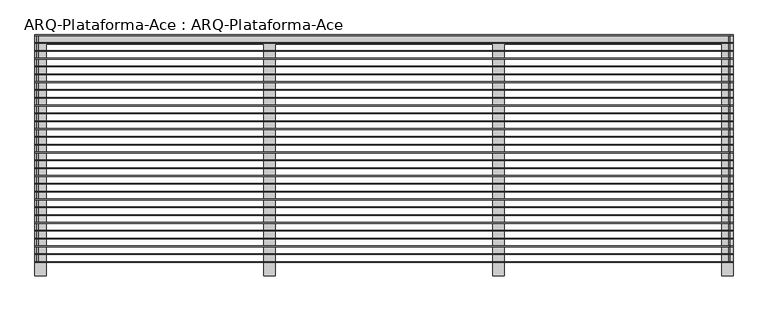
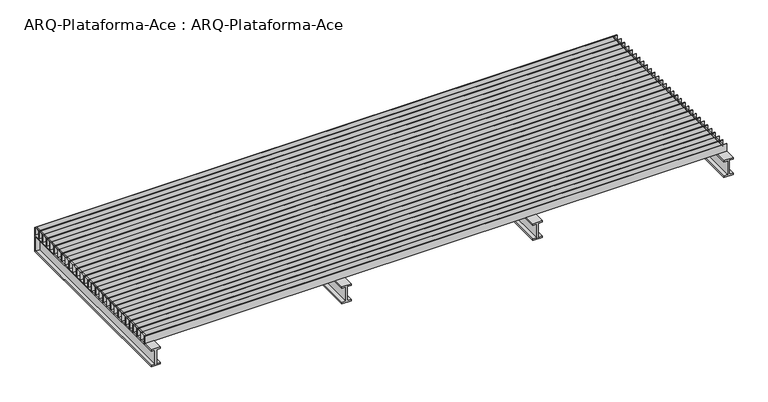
"""IFC4 building model written with IfcOpenShell, lengths in millimetres: proxy geometry, ARQ-Plataforma-Ace : ARQ-Plataforma-Ace."""

from ifc_helpers import new_model, si_unit, point, frame, frame_2d, origin, origin_with_axes, place, context, project, spatial, polyline, circle_curve, trimmed, segment, composite_curve, outline, extrude, faceted_brep, source, transform, mapped, element, save


def arq_plataforma_ace_arq_plataforma_ace_1b43c91c(model_context):
    return source(origin(), model_context, "Body", "SolidModel", [
        extrude(outline(composite_curve([segment(trimmed(circle_curve(frame_2d((28.8398929, 1285.9545951)), 2.5), [point((28.8398929, 1283.4545951))], [point((28.8398929, 1288.4545951))], False, "CARTESIAN"), True, "CONTINUOUS"), segment(trimmed(circle_curve(frame_2d((28.8398929, 1285.9545951)), 2.5), [point((28.8398929, 1288.4545951))], [point((28.8398929, 1283.4545951))], False, "CARTESIAN"), True, "CONTINUOUS")], self_intersect=False)), frame((0.0, -371.25, 0.0), z_axis=(0.0, 1.0, 0.0), x_axis=(0.0, 0.0, 1.0)), (0.0, 0.0, 1.0), 843.75),
        extrude(outline(composite_curve([segment(trimmed(circle_curve(frame_2d((28.8398929, -1290.8384963)), 2.5), [point((28.8398929, -1293.3384963))], [point((28.8398929, -1288.3384963))], False, "CARTESIAN"), True, "CONTINUOUS"), segment(trimmed(circle_curve(frame_2d((28.8398929, -1290.8384963)), 2.5), [point((28.8398929, -1288.3384963))], [point((28.8398929, -1293.3384963))], False, "CARTESIAN"), True, "CONTINUOUS")], self_intersect=False)), frame((0.0, -371.25, 0.0), z_axis=(0.0, 1.0, 0.0), x_axis=(0.0, 0.0, 1.0)), (0.0, 0.0, 1.0), 843.75),
        extrude(outline(polyline([(1300.0, 445.8189655), (1300.0, 443.3189655), (-1300.0, 443.3189655), (-1300.0, 445.8189655), (1300.0, 445.8189655)])), origin_with_axes(), (0.0, 0.0, 1.0), 35.0),
        extrude(outline(polyline([(1300.0, 416.637931), (1300.0, 414.137931), (-1300.0, 414.137931), (-1300.0, 416.637931), (1300.0, 416.637931)])), origin_with_axes(), (0.0, 0.0, 1.0), 35.0),
        extrude(outline(polyline([(1300.0, 387.4568966), (1300.0, 384.9568966), (-1300.0, 384.9568966), (-1300.0, 387.4568966), (1300.0, 387.4568966)])), origin_with_axes(), (0.0, 0.0, 1.0), 35.0),
        extrude(outline(polyline([(1300.0, 358.2758621), (1300.0, 355.7758621), (-1300.0, 355.7758621), (-1300.0, 358.2758621), (1300.0, 358.2758621)])), origin_with_axes(), (0.0, 0.0, 1.0), 35.0),
        extrude(outline(polyline([(1300.0, 329.0948276), (1300.0, 326.5948276), (-1300.0, 326.5948276), (-1300.0, 329.0948276), (1300.0, 329.0948276)])), origin_with_axes(), (0.0, 0.0, 1.0), 35.0),
        extrude(outline(polyline([(1300.0, 299.9137931), (1300.0, 297.4137931), (-1300.0, 297.4137931), (-1300.0, 299.9137931), (1300.0, 299.9137931)])), origin_with_axes(), (0.0, 0.0, 1.0), 35.0),
        extrude(outline(polyline([(1300.0, 270.7327586), (1300.0, 268.2327586), (-1300.0, 268.2327586), (-1300.0, 270.7327586), (1300.0, 270.7327586)])), origin_with_axes(), (0.0, 0.0, 1.0), 35.0),
        extrude(outline(polyline([(1300.0, 241.5517241), (1300.0, 239.0517241), (-1300.0, 239.0517241), (-1300.0, 241.5517241), (1300.0, 241.5517241)])), origin_with_axes(), (0.0, 0.0, 1.0), 35.0),
        extrude(outline(polyline([(1300.0, 212.3706897), (1300.0, 209.8706897), (-1300.0, 209.8706897), (-1300.0, 212.3706897), (1300.0, 212.3706897)])), origin_with_axes(), (0.0, 0.0, 1.0), 35.0),
        extrude(outline(polyline([(1300.0, 183.1896552), (1300.0, 180.6896552), (-1300.0, 180.6896552), (-1300.0, 183.1896552), (1300.0, 183.1896552)])), origin_with_axes(), (0.0, 0.0, 1.0), 35.0),
        extrude(outline(polyline([(1300.0, 154.0086207), (1300.0, 151.5086207), (-1300.0, 151.5086207), (-1300.0, 154.0086207), (1300.0, 154.0086207)])), origin_with_axes(), (0.0, 0.0, 1.0), 35.0),
        extrude(outline(polyline([(1300.0, 124.8275862), (1300.0, 122.3275862), (-1300.0, 122.3275862), (-1300.0, 124.8275862), (1300.0, 124.8275862)])), origin_with_axes(), (0.0, 0.0, 1.0), 35.0),
        extrude(outline(polyline([(1300.0, 95.6465517), (1300.0, 93.1465517), (-1300.0, 93.1465517), (-1300.0, 95.6465517), (1300.0, 95.6465517)])), origin_with_axes(), (0.0, 0.0, 1.0), 35.0),
        extrude(outline(polyline([(1300.0, 66.4655172), (1300.0, 63.9655172), (-1300.0, 63.9655172), (-1300.0, 66.4655172), (1300.0, 66.4655172)])), origin_with_axes(), (0.0, 0.0, 1.0), 35.0),
        extrude(outline(polyline([(1300.0, 37.2844828), (1300.0, 34.7844828), (-1300.0, 34.7844828), (-1300.0, 37.2844828), (1300.0, 37.2844828)])), origin_with_axes(), (0.0, 0.0, 1.0), 35.0),
        extrude(outline(polyline([(1300.0, 8.1034483), (1300.0, 5.6034483), (-1300.0, 5.6034483), (-1300.0, 8.1034483), (1300.0, 8.1034483)])), origin_with_axes(), (0.0, 0.0, 1.0), 35.0),
        extrude(outline(polyline([(1300.0, -21.0775862), (1300.0, -23.5775862), (-1300.0, -23.5775862), (-1300.0, -21.0775862), (1300.0, -21.0775862)])), origin_with_axes(), (0.0, 0.0, 1.0), 35.0),
        extrude(outline(polyline([(1300.0, -50.2586207), (1300.0, -52.7586207), (-1300.0, -52.7586207), (-1300.0, -50.2586207), (1300.0, -50.2586207)])), origin_with_axes(), (0.0, 0.0, 1.0), 35.0),
        extrude(outline(polyline([(1300.0, -79.4396552), (1300.0, -81.9396552), (-1300.0, -81.9396552), (-1300.0, -79.4396552), (1300.0, -79.4396552)])), origin_with_axes(), (0.0, 0.0, 1.0), 35.0),
        extrude(outline(polyline([(1300.0, -108.6206897), (1300.0, -111.1206897), (-1300.0, -111.1206897), (-1300.0, -108.6206897), (1300.0, -108.6206897)])), origin_with_axes(), (0.0, 0.0, 1.0), 35.0),
        extrude(outline(polyline([(1300.0, -137.8017241), (1300.0, -140.3017241), (-1300.0, -140.3017241), (-1300.0, -137.8017241), (1300.0, -137.8017241)])), origin_with_axes(), (0.0, 0.0, 1.0), 35.0),
        extrude(outline(polyline([(1300.0, -166.9827586), (1300.0, -169.4827586), (-1300.0, -169.4827586), (-1300.0, -166.9827586), (1300.0, -166.9827586)])), origin_with_axes(), (0.0, 0.0, 1.0), 35.0),
        extrude(outline(polyline([(1300.0, -196.1637931), (1300.0, -198.6637931), (-1300.0, -198.6637931), (-1300.0, -196.1637931), (1300.0, -196.1637931)])), origin_with_axes(), (0.0, 0.0, 1.0), 35.0),
        extrude(outline(polyline([(1300.0, -225.3448276), (1300.0, -227.8448276), (-1300.0, -227.8448276), (-1300.0, -225.3448276), (1300.0, -225.3448276)])), origin_with_axes(), (0.0, 0.0, 1.0), 35.0),
        extrude(outline(polyline([(1300.0, -254.5258621), (1300.0, -257.0258621), (-1300.0, -257.0258621), (-1300.0, -254.5258621), (1300.0, -254.5258621)])), origin_with_axes(), (0.0, 0.0, 1.0), 35.0),
        extrude(outline(polyline([(1300.0, -283.7068966), (1300.0, -286.2068966), (-1300.0, -286.2068966), (-1300.0, -283.7068966), (1300.0, -283.7068966)])), origin_with_axes(), (0.0, 0.0, 1.0), 35.0),
        extrude(outline(polyline([(1300.0, -312.887931), (1300.0, -315.387931), (-1300.0, -315.387931), (-1300.0, -312.887931), (1300.0, -312.887931)])), origin_with_axes(), (0.0, 0.0, 1.0), 35.0),
        extrude(outline(polyline([(1300.0, -342.0689655), (1300.0, -344.5689655), (-1300.0, -344.5689655), (-1300.0, -342.0689655), (1300.0, -342.0689655)])), origin_with_axes(), (0.0, 0.0, 1.0), 35.0),
        extrude(outline(polyline([(1300.0, 475.0), (1300.0, 472.5), (-1300.0, 472.5), (-1300.0, 475.0), (1300.0, 475.0)])), origin_with_axes(), (0.0, 0.0, 1.0), 35.0),
        extrude(outline(polyline([(1300.0, -371.25), (1300.0, -373.75), (-1300.0, -373.75), (-1300.0, -371.25), (1300.0, -371.25)])), origin_with_axes(), (0.0, 0.0, 1.0), 35.0),
        faceted_brep([(-1300.0, 468.0, -73.0), (-1300.0, 468.0, -7.0), (-1300.0, -423.75, -7.0), (-1300.0, -423.75, 0.0), (-1300.0, 475.0, 0.0), (-1300.0, 475.0, -80.0), (-1300.0, -423.75, -80.0), (-1300.0, -423.75, -73.0), (1300.0, -423.75, 0.0), (1300.0, -423.75, -7.0), (1300.0, 468.0, -7.0), (1300.0, 468.0, -73.0), (1300.0, -423.75, -73.0), (1300.0, -423.75, -80.0), (1300.0, 475.0, -80.0), (1300.0, 475.0, 0.0), (1258.0, -423.75, -80.0), (1258.0, 440.0, -80.0), (447.3333333, 440.0, -80.0), (447.3333333, -423.75, -80.0), (405.3333333, -423.75, -80.0), (405.3333333, 440.0, -80.0), (-405.3333333, 440.0, -80.0), (-405.3333333, -423.75, -80.0), (-447.3333333, -423.75, -80.0), (-447.3333333, 440.0, -80.0), (-1258.0, 440.0, -80.0), (-1258.0, -423.75, -80.0), (-447.3333333, 440.0, -73.0), (-1258.0, 440.0, -73.0), (-405.3333333, 440.0, -73.0), (405.3333333, 440.0, -73.0), (447.3333333, 440.0, -73.0), (1258.0, 440.0, -73.0), (1282.5, 468.0, -73.0), (1282.5, -423.75, -73.0), (-422.8333333, -423.75, -73.0), (-405.3333333, -423.75, -73.0), (405.3333333, -423.75, -73.0), (422.8333333, -423.75, -73.0), (422.8333333, 468.0, -73.0), (-422.8333333, 468.0, -73.0), (-447.3333333, -423.75, -73.0), (-429.8333333, -423.75, -73.0), (-429.8333333, 468.0, -73.0), (-1275.5, 468.0, -73.0), (-1275.5, -423.75, -73.0), (-1258.0, -423.75, -73.0), (-1282.5, -423.75, -73.0), (-1282.5, 468.0, -73.0), (429.8333333, -423.75, -73.0), (447.3333333, -423.75, -73.0), (1258.0, -423.75, -73.0), (1275.5, -423.75, -73.0), (1275.5, 468.0, -73.0), (429.8333333, 468.0, -73.0), (-1282.5, 468.0, -7.0), (1282.5, 468.0, -7.0), (-429.8333333, 468.0, -7.0), (-1275.5, 468.0, -7.0), (-422.8333333, 468.0, -7.0), (422.8333333, 468.0, -7.0), (1275.5, 468.0, -7.0), (429.8333333, 468.0, -7.0), (1282.5, -423.75, -7.0), (-405.3333333, -423.75, -7.0), (-422.8333333, -423.75, -7.0), (422.8333333, -423.75, -7.0), (405.3333333, -423.75, -7.0), (405.3333333, 440.0, -7.0), (-405.3333333, 440.0, -7.0), (-429.8333333, -423.75, -7.0), (-447.3333333, -423.75, -7.0), (-447.3333333, 440.0, -7.0), (-1258.0, 440.0, -7.0), (-1258.0, -423.75, -7.0), (-1275.5, -423.75, -7.0), (-1282.5, -423.75, -7.0), (447.3333333, -423.75, -7.0), (429.8333333, -423.75, -7.0), (1275.5, -423.75, -7.0), (1258.0, -423.75, -7.0), (1258.0, 440.0, -7.0), (447.3333333, 440.0, -7.0), (-447.3333333, 440.0, 0.0), (-1258.0, 440.0, 0.0), (-405.3333333, 440.0, 0.0), (405.3333333, 440.0, 0.0), (447.3333333, 440.0, 0.0), (1258.0, 440.0, 0.0), (-1258.0, -423.75, 0.0), (-447.3333333, -423.75, 0.0), (-405.3333333, -423.75, 0.0), (405.3333333, -423.75, 0.0), (447.3333333, -423.75, 0.0), (1258.0, -423.75, 0.0)], [[[0, 1, 2, 3, 4, 5, 6, 7]], [[8, 9, 10, 11, 12, 13, 14, 15]], [[14, 13, 16, 17, 18, 19, 20, 21, 22, 23, 24, 25, 26, 27, 6, 5]], [[25, 28, 29, 26]], [[30, 22, 21, 31]], [[32, 18, 17, 33]], [[12, 11, 34, 35]], [[36, 37, 30, 31, 38, 39, 40, 41]], [[42, 43, 44, 45, 46, 47, 29, 28]], [[7, 48, 49, 0]], [[50, 51, 32, 33, 52, 53, 54, 55]], [[1, 0, 49, 56]], [[11, 10, 57, 34]], [[44, 58, 59, 45]], [[60, 41, 40, 61]], [[62, 63, 55, 54]], [[10, 9, 64, 57]], [[65, 66, 60, 61, 67, 68, 69, 70]], [[71, 72, 73, 74, 75, 76, 59, 58]], [[77, 2, 1, 56]], [[78, 79, 63, 62, 80, 81, 82, 83]], [[73, 84, 85, 74]], [[86, 70, 69, 87]], [[88, 83, 82, 89]], [[8, 15, 4, 3, 90, 85, 84, 91, 92, 86, 87, 93, 94, 88, 89, 95]], [[14, 5, 4, 15]], [[23, 37, 36, 66, 65, 92, 91, 72, 71, 43, 42, 24]], [[24, 42, 28, 25]], [[43, 71, 58, 44]], [[72, 91, 84, 73]], [[92, 65, 70, 86]], [[66, 36, 41, 60]], [[37, 23, 22, 30]], [[27, 47, 46, 76, 75, 90, 3, 2, 77, 48, 7, 6]], [[48, 77, 56, 49]], [[90, 75, 74, 85]], [[76, 46, 45, 59]], [[47, 27, 26, 29]], [[19, 51, 50, 79, 78, 94, 93, 68, 67, 39, 38, 20]], [[20, 38, 31, 21]], [[39, 67, 61, 40]], [[68, 93, 87, 69]], [[94, 78, 83, 88]], [[79, 50, 55, 63]], [[51, 19, 18, 32]], [[13, 12, 35, 64, 9, 8, 95, 81, 80, 53, 52, 16]], [[16, 52, 33, 17]], [[54, 53, 80, 62]], [[81, 95, 89, 82]], [[57, 64, 35, 34]]]),
    ])


if __name__ == "__main__":
    model = new_model("IFC4")
    model_context = context("Model", 3, world=origin())
    ifc_project = project(units=[si_unit("LENGTHUNIT", "METRE", prefix="MILLI")], contexts=[model_context])
    site = spatial("IfcSite", under=ifc_project)
    building = spatial("IfcBuilding", under=site)
    placement = place(None, origin())
    arq_plataforma_ace_arq_plataforma_ace_shape = arq_plataforma_ace_arq_plataforma_ace_1b43c91c(model_context)
    element("IfcBuildingElementProxy", 1, Name="ARQ-Plataforma-Ace : ARQ-Plataforma-Ace", ObjectType="ARQ-Plataforma-Ace : ARQ-Plataforma-Ace", at=placement, inside=building, context=model_context, shape_type="MappedRepresentation", body=[
        mapped(arq_plataforma_ace_arq_plataforma_ace_shape, transform((0.0, 0.0, 0.0), x_axis=(1.0, 0.0, 0.0), y_axis=(0.0, 1.0, 0.0), z_axis=(0.0, 0.0, 1.0))),
    ])
    save(model, "model.ifc")
